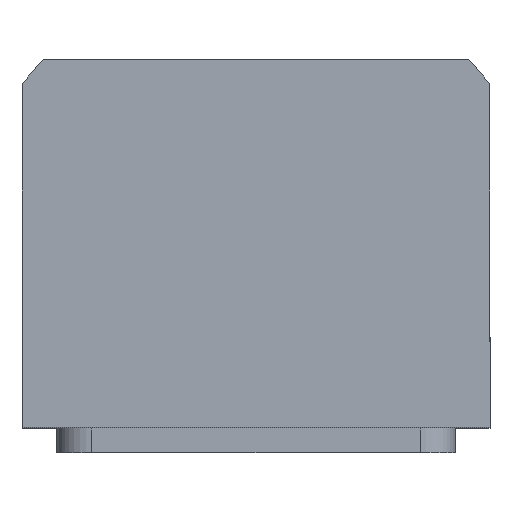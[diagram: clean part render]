
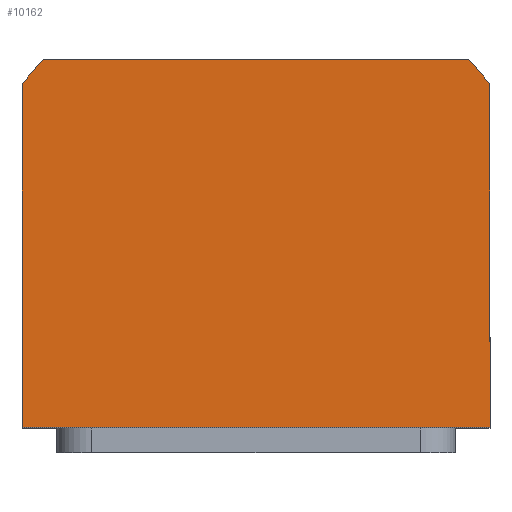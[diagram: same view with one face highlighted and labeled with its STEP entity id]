
A CAD part, top view. The second image highlights one B-rep face of the part: STEP entity #10162.
In plain terms, the highlighted planar face has unit normal (0, 0, 1).
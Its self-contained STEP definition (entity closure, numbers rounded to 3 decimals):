
#271 = CARTESIAN_POINT ( 'NONE',  ( 47., 34.832, 47.5 ) ) ;
#635 = EDGE_CURVE ( 'NONE', #9504, #7665, #7061, .T. ) ;
#881 = DIRECTION ( 'NONE',  ( 1., 0., 0. ) ) ;
#917 = ORIENTED_EDGE ( 'NONE', *, *, #8818, .T. ) ;
#1110 = DIRECTION ( 'NONE',  ( 0., 0., 1. ) ) ;
#1205 = CARTESIAN_POINT ( 'NONE',  ( 0., 0., 47.5 ) ) ;
#1252 = AXIS2_PLACEMENT_3D ( 'NONE', #3058, #12310, #11228 ) ;
#1438 = EDGE_CURVE ( 'NONE', #4377, #9504, #2254, .T. ) ;
#1734 = CARTESIAN_POINT ( 'NONE',  ( -42.688, 40., 47.5 ) ) ;
#2059 = VECTOR ( 'NONE', #5610, 1000. ) ;
#2123 = FACE_OUTER_BOUND ( 'NONE', #11653, .T. ) ;
#2254 = LINE ( 'NONE', #271, #9201 ) ;
#2432 = LINE ( 'NONE', #7778, #2059 ) ;
#2711 = CARTESIAN_POINT ( 'NONE',  ( -47., -34., 47.5 ) ) ;
#3058 = CARTESIAN_POINT ( 'NONE',  ( 0., 0., 47.5 ) ) ;
#3083 = CARTESIAN_POINT ( 'NONE',  ( 0., 0., 47.5 ) ) ;
#3300 = LINE ( 'NONE', #6891, #8996 ) ;
#3315 = VERTEX_POINT ( 'NONE', #5890 ) ;
#3623 = ORIENTED_EDGE ( 'NONE', *, *, #6658, .T. ) ;
#3801 = CARTESIAN_POINT ( 'NONE',  ( 42.688, 40., 47.5 ) ) ;
#4377 = VERTEX_POINT ( 'NONE', #5467 ) ;
#4647 = DIRECTION ( 'NONE',  ( 1., 0., 0. ) ) ;
#4712 = DIRECTION ( 'NONE',  ( 1., 0., 0. ) ) ;
#5467 = CARTESIAN_POINT ( 'NONE',  ( 47., -34., 47.5 ) ) ;
#5610 = DIRECTION ( 'NONE',  ( -1., 0., 0. ) ) ;
#5887 = VECTOR ( 'NONE', #14398, 1000. ) ;
#5890 = CARTESIAN_POINT ( 'NONE',  ( -47., 34.832, 47.5 ) ) ;
#5985 = VERTEX_POINT ( 'NONE', #9433 ) ;
#6264 = ORIENTED_EDGE ( 'NONE', *, *, #12337, .T. ) ;
#6321 = AXIS2_PLACEMENT_3D ( 'NONE', #3083, #11298, #881 ) ;
#6658 = EDGE_CURVE ( 'NONE', #7665, #11754, #2432, .T. ) ;
#6891 = CARTESIAN_POINT ( 'NONE',  ( 47., -34., 47.5 ) ) ;
#7061 = CIRCLE ( 'NONE', #1252, 58.5 ) ;
#7665 = VERTEX_POINT ( 'NONE', #3801 ) ;
#7778 = CARTESIAN_POINT ( 'NONE',  ( -42.688, 40., 47.5 ) ) ;
#8484 = DIRECTION ( 'NONE',  ( 0., 1., 0. ) ) ;
#8818 = EDGE_CURVE ( 'NONE', #11754, #3315, #10051, .T. ) ;
#8875 = CARTESIAN_POINT ( 'NONE',  ( 47., 34.832, 47.5 ) ) ;
#8996 = VECTOR ( 'NONE', #4647, 1000. ) ;
#9201 = VECTOR ( 'NONE', #8484, 1000. ) ;
#9264 = PLANE ( 'NONE',  #9679 ) ;
#9433 = CARTESIAN_POINT ( 'NONE',  ( -47., -34., 47.5 ) ) ;
#9504 = VERTEX_POINT ( 'NONE', #8875 ) ;
#9556 = LINE ( 'NONE', #2711, #5887 ) ;
#9679 = AXIS2_PLACEMENT_3D ( 'NONE', #1205, #1110, #4712 ) ;
#10051 = CIRCLE ( 'NONE', #6321, 58.5 ) ;
#10162 = ADVANCED_FACE ( 'NONE', ( #2123 ), #9264, .T. ) ;
#11228 = DIRECTION ( 'NONE',  ( 1., 0., 0. ) ) ;
#11298 = DIRECTION ( 'NONE',  ( 0., 0., 1. ) ) ;
#11653 = EDGE_LOOP ( 'NONE', ( #6264, #11909, #11870, #3623, #917, #13575 ) ) ;
#11754 = VERTEX_POINT ( 'NONE', #1734 ) ;
#11870 = ORIENTED_EDGE ( 'NONE', *, *, #635, .T. ) ;
#11909 = ORIENTED_EDGE ( 'NONE', *, *, #1438, .T. ) ;
#12310 = DIRECTION ( 'NONE',  ( 0., 0., 1. ) ) ;
#12337 = EDGE_CURVE ( 'NONE', #5985, #4377, #3300, .T. ) ;
#12378 = EDGE_CURVE ( 'NONE', #3315, #5985, #9556, .T. ) ;
#13575 = ORIENTED_EDGE ( 'NONE', *, *, #12378, .T. ) ;
#14398 = DIRECTION ( 'NONE',  ( 0., -1., 0. ) ) ;
